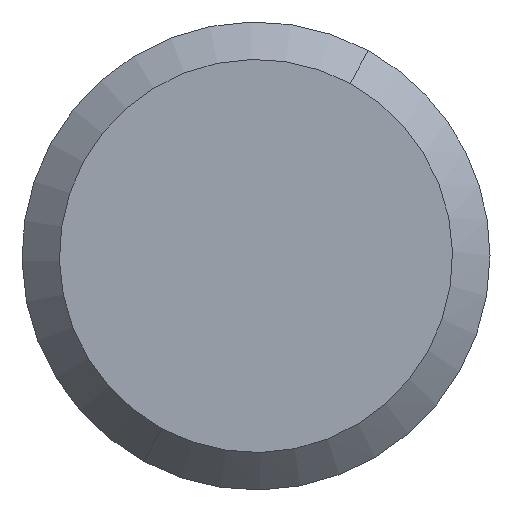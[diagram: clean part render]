
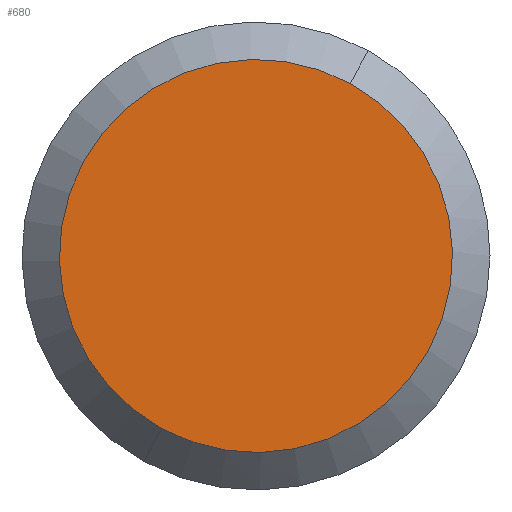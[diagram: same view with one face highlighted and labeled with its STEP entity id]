
A CAD part, front view. The second image highlights one B-rep face of the part: STEP entity #680.
In plain terms, the highlighted planar face has unit normal (0, -1, 0).
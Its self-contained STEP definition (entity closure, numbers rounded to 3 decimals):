
#98 = ORIENTED_EDGE ( 'NONE', *, *, #920, .F. ) ;
#103 = DIRECTION ( 'NONE',  ( 0., 1., 0. ) ) ;
#107 = CARTESIAN_POINT ( 'NONE',  ( 0., -138.4, 5. ) ) ;
#171 = EDGE_LOOP ( 'NONE', ( #682, #98 ) ) ;
#233 = CIRCLE ( 'NONE', #333, 4.2 ) ;
#236 = CIRCLE ( 'NONE', #322, 4.2 ) ;
#237 = DIRECTION ( 'NONE',  ( 1., 0., 0. ) ) ;
#307 = DIRECTION ( 'NONE',  ( 1., 0., 0. ) ) ;
#322 = AXIS2_PLACEMENT_3D ( 'NONE', #798, #103, #237 ) ;
#329 = VERTEX_POINT ( 'NONE', #855 ) ;
#333 = AXIS2_PLACEMENT_3D ( 'NONE', #434, #853, #307 ) ;
#374 = AXIS2_PLACEMENT_3D ( 'NONE', #107, #603, #810 ) ;
#434 = CARTESIAN_POINT ( 'NONE',  ( 0., -138.4, 0. ) ) ;
#477 = VERTEX_POINT ( 'NONE', #772 ) ;
#603 = DIRECTION ( 'NONE',  ( 0., 1., 0. ) ) ;
#606 = EDGE_CURVE ( 'NONE', #329, #477, #236, .T. ) ;
#680 = ADVANCED_FACE ( 'NONE', ( #836 ), #812, .F. ) ;
#682 = ORIENTED_EDGE ( 'NONE', *, *, #606, .F. ) ;
#772 = CARTESIAN_POINT ( 'NONE',  ( -2.014, -138.4, -3.686 ) ) ;
#798 = CARTESIAN_POINT ( 'NONE',  ( 0., -138.4, 0. ) ) ;
#810 = DIRECTION ( 'NONE',  ( 1., 0., 0. ) ) ;
#812 = PLANE ( 'NONE',  #374 ) ;
#836 = FACE_OUTER_BOUND ( 'NONE', #171, .T. ) ;
#853 = DIRECTION ( 'NONE',  ( 0., 1., 0. ) ) ;
#855 = CARTESIAN_POINT ( 'NONE',  ( 2.014, -138.4, 3.686 ) ) ;
#920 = EDGE_CURVE ( 'NONE', #477, #329, #233, .T. ) ;
